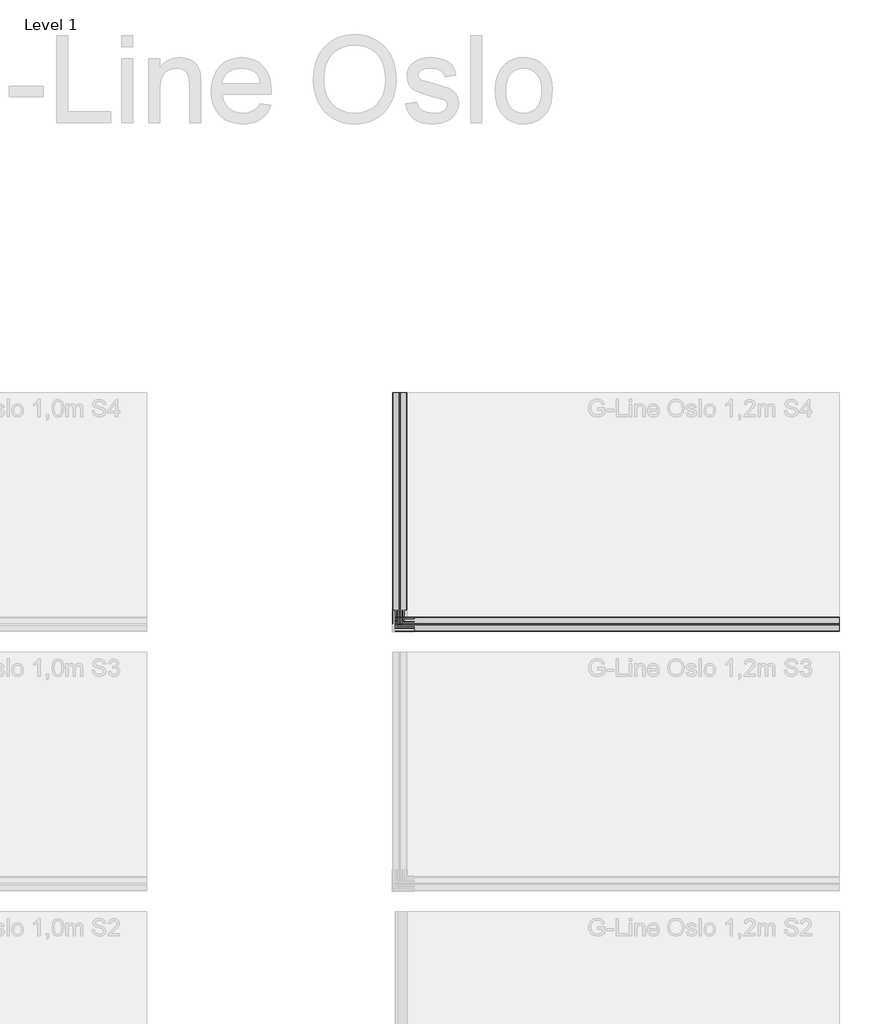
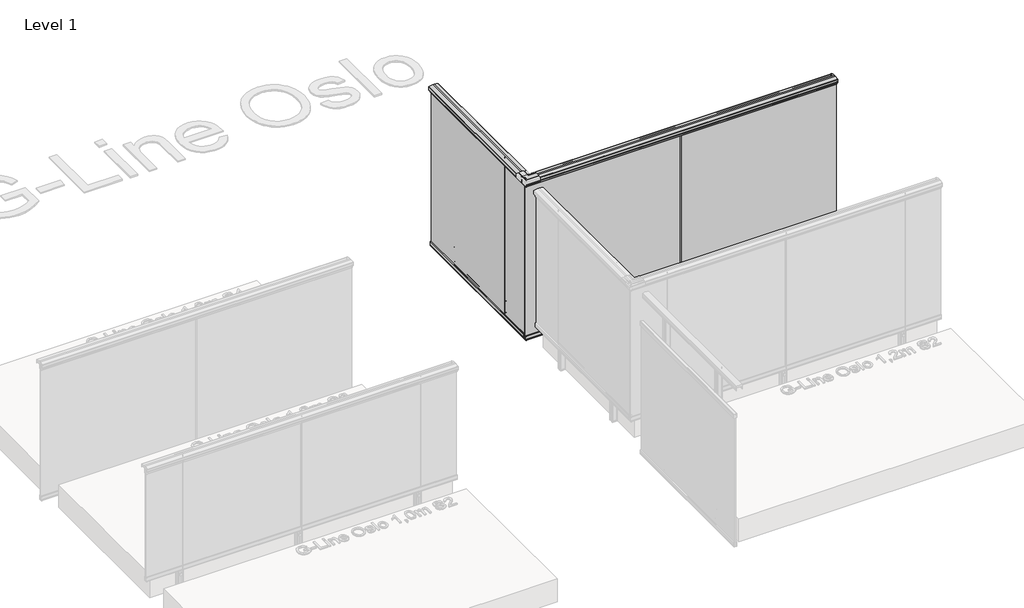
# One storey, part 46 of 66: 2 railings.
"""IFC4 building model written with IfcOpenShell, lengths in millimetres."""

import ifcopenshell
import ifcopenshell.guid

model = None  # the IFC model being written
_history = None  # IfcOwnerHistory: only IFC2X3 demands one
_inside = {}  # id of a spatial element -> (the spatial element, [elements in it])
_under = {}  # id of a project, library or spatial element -> (it, [spatial elements below it])
_declared = {}  # id of a project -> (the project, [libraries it declares])
_typed = {}  # id of a type object -> (the type object, [elements of that type])
_made_of = {}  # id of a material, layer set ... -> (it, [elements and type objects made of it])


def new_model(schema):
    """Start an empty IFC model of exactly this schema.

    Asked for "IFC4X3", IfcOpenShell would pick the latest addendum, in which some entities
    have other attributes; the version numbers below select the first issue.
    IFC2X3 requires an IfcOwnerHistory on every rooted entity: one is made here for all.
    """
    global model, _history
    if schema == "IFC4X3":
        model = ifcopenshell.file(schema_version=(4, 3, 0, 0))
    else:
        model = ifcopenshell.file(schema=schema)
    _inside.clear()
    _under.clear()
    _declared.clear()
    _typed.clear()
    _made_of.clear()
    _history = None
    if model.schema == "IFC2X3":
        org = make("IfcOrganization", Name="unknown")
        user = make(
            "IfcPersonAndOrganization",
            ThePerson=make("IfcPerson", FamilyName="unknown"),
            TheOrganization=org,
        )
        app = make(
            "IfcApplication",
            ApplicationDeveloper=org,
            Version="unknown",
            ApplicationFullName="unknown",
            ApplicationIdentifier="unknown",
        )
        _history = make(
            "IfcOwnerHistory",
            OwningUser=user,
            OwningApplication=app,
            ChangeAction="ADDED",
            CreationDate=0,
        )
    return model


def make(cls, **values):
    """One entity of the class cls with the attributes given. An attribute that is None is left unset."""
    return model.create_entity(
        cls, **{name: value for name, value in values.items() if value is not None}
    )


def rooted(cls, **values):
    """An entity with a GlobalId (a new one), such as an element, a storey or a relation."""
    return make(cls, GlobalId=ifcopenshell.guid.new(), OwnerHistory=_history, **values)


def si_unit(unit_type, name, prefix=None):
    """IfcSIUnit, for example si_unit("LENGTHUNIT", "METRE", prefix="MILLI")."""
    return make("IfcSIUnit", UnitType=unit_type, Prefix=prefix, Name=name)


def assignment(units):
    """IfcUnitAssignment: the units of a project."""
    return None if units is None else make("IfcUnitAssignment", Units=units)


def point(xyz):
    """IfcCartesianPoint."""
    return None if xyz is None else make("IfcCartesianPoint", Coordinates=xyz)


def direction(xyz):
    """IfcDirection."""
    return None if xyz is None else make("IfcDirection", DirectionRatios=xyz)


def frame(location, z_axis=None, x_axis=None):
    """IfcAxis2Placement3D, a coordinate frame: its origin and axes. An axis left out is left unset."""
    return make(
        "IfcAxis2Placement3D",
        Location=point(location),
        Axis=direction(z_axis),
        RefDirection=direction(x_axis),
    )


def frame_2d(location, x_axis=None):
    """IfcAxis2Placement2D, a coordinate frame in the plane: its origin and x axis."""
    return make(
        "IfcAxis2Placement2D", Location=point(location), RefDirection=direction(x_axis)
    )


def origin():
    """The frame at (0, 0, 0) with its axes left unset."""
    return frame((0.0, 0.0, 0.0))


def place(relative_to, where):
    """IfcLocalPlacement: puts the frame where relative to a parent placement (None: the world)."""
    return make(
        "IfcLocalPlacement", PlacementRelTo=relative_to, RelativePlacement=where
    )


def context(
    kind, dimensions, precision=None, world=None, true_north=None, identifier=None
):
    """IfcGeometricRepresentationContext, for example the 3D "Model" context."""
    return make(
        "IfcGeometricRepresentationContext",
        ContextIdentifier=identifier,
        ContextType=kind,
        CoordinateSpaceDimension=dimensions,
        Precision=precision,
        WorldCoordinateSystem=world,
        TrueNorth=true_north,
    )


def project(units=None, contexts=None):
    """IfcProject with its units and contexts."""
    return rooted(
        "IfcProject",
        Name="project",
        RepresentationContexts=contexts,
        UnitsInContext=assignment(units),
    )


def spatial(cls, under=None, at=None, **own):
    """A site, building, storey or space (cls), placed at a placement, below another one or the project."""
    s = rooted(cls, ObjectPlacement=at, **own)
    if under is not None:
        _under.setdefault(under.id(), (under, []))[1].append(s)
    return s


def polyline(points):
    """IfcPolyline through the points."""
    return make("IfcPolyline", Points=[point(p) for p in points])


def circle_curve(where, radius):
    """IfcCircle in the frame where."""
    return make("IfcCircle", Position=where, Radius=radius)


def trimmed(basis, trim1, trim2, sense, master):
    """IfcTrimmedCurve: the piece of a basis curve between two trims."""
    return make(
        "IfcTrimmedCurve",
        BasisCurve=basis,
        Trim1=trim1,
        Trim2=trim2,
        SenseAgreement=sense,
        MasterRepresentation=master,
    )


def segment(curve, same_sense, transition):
    """IfcCompositeCurveSegment."""
    return make(
        "IfcCompositeCurveSegment",
        Transition=transition,
        SameSense=same_sense,
        ParentCurve=curve,
    )


def composite_curve(segments, self_intersect=None):
    """IfcCompositeCurve: segments joined end to end."""
    return make("IfcCompositeCurve", Segments=segments, SelfIntersect=self_intersect)


def outline(outer, holes=None, kind="AREA"):
    """IfcArbitraryClosedProfileDef: a profile drawn as a closed curve; with holes, ...WithVoids."""
    if holes is None:
        return make("IfcArbitraryClosedProfileDef", ProfileType=kind, OuterCurve=outer)
    return make(
        "IfcArbitraryProfileDefWithVoids",
        ProfileType=kind,
        OuterCurve=outer,
        InnerCurves=holes,
    )


def extrude(swept, where, along, depth):
    """IfcExtrudedAreaSolid: the profile swept, set in the frame where, extruded along a direction by depth."""
    return make(
        "IfcExtrudedAreaSolid",
        SweptArea=swept,
        Position=where,
        ExtrudedDirection=direction(along),
        Depth=depth,
    )


def shape(context_of_items, identifier, shape_type, items):
    """IfcShapeRepresentation: the items that make up one representation, for example the "Body"."""
    return make(
        "IfcShapeRepresentation",
        ContextOfItems=context_of_items,
        RepresentationIdentifier=identifier,
        RepresentationType=shape_type,
        Items=items,
    )


def made_of(thing, what):
    """Note that an element or type object is made of a material, layer set ...; save() writes the relation."""
    if what is not None:
        _made_of.setdefault(what.id(), (what, []))[1].append(thing)
    return thing


def element(
    cls,
    number,
    at=None,
    inside=None,
    cuts=None,
    type_object=None,
    material=None,
    context=None,
    identifier="Body",
    shape_type=None,
    held_by="IfcProductDefinitionShape",
    body=None,
    shapes=None,
    **own,
):
    """One element of the class cls, such as IfcWall. Its Tag is "e" and its number.

    at: its placement. inside: the storey or other place that contains it. cuts: it is an
    opening in that element (IfcRelVoidsElement). A single representation is given by context,
    identifier, shape_type and body (its items); several are given by shapes. held_by: the class
    of the entity that holds the representations. save() writes the other relations.
    """
    e = rooted(cls, Tag="e%d" % number, ObjectPlacement=at, **own)
    if body is not None:
        shapes = [shape(context, identifier, shape_type, body)]
    if shapes is not None:
        e.Representation = make(held_by, Representations=shapes)
    if inside is not None:
        _inside.setdefault(inside.id(), (inside, []))[1].append(e)
    if cuts is not None:
        rooted(
            "IfcRelVoidsElement", RelatingBuildingElement=cuts, RelatedOpeningElement=e
        )
    if type_object is not None:
        _typed.setdefault(type_object.id(), (type_object, []))[1].append(e)
    return made_of(e, material)


def aggregate(whole, parts):
    """IfcRelAggregates: a whole, such as a stair, and the parts it consists of."""
    return rooted("IfcRelAggregates", RelatingObject=whole, RelatedObjects=parts)


def save(model, path):
    """Write the relations noted so far, then the file.

    IfcRelAggregates (storeys below a building ...), IfcRelContainedInSpatialStructure (elements
    in a storey), IfcRelDefinesByType, IfcRelAssociatesMaterial and IfcRelDeclares: one each for
    every whole, place, type object, material and project.
    """
    for whole, parts in _under.values():
        aggregate(whole, parts)
    for where, things in _inside.values():
        rooted(
            "IfcRelContainedInSpatialStructure",
            RelatedElements=things,
            RelatingStructure=where,
        )
    for kind, things in _typed.values():
        rooted("IfcRelDefinesByType", RelatedObjects=things, RelatingType=kind)
    for what, things in _made_of.values():
        rooted("IfcRelAssociatesMaterial", RelatedObjects=things, RelatingMaterial=what)
    for by, libraries in _declared.values():
        rooted("IfcRelDeclares", RelatingContext=by, RelatedDefinitions=libraries)
    model.write(path)


model = new_model("IFC4")

# Units and contexts
model_context = context("Model", 3, world=origin())
ifc_project = project(units=[si_unit("LENGTHUNIT", "METRE", prefix="MILLI")], contexts=[model_context])

# Site, building, storey
site = spatial("IfcSite", under=ifc_project)
building = spatial("IfcBuilding", under=site)
storey = spatial("IfcBuildingStorey", under=building, Name="Level 1", Elevation=0.0)

# Railings
placement = place(None, origin())
element("IfcRailing", 1, ObjectType="G-Line Oslo 1,2m  S4", at=placement, inside=storey, context=model_context, shape_type="SweptSolid", body=[
    extrude(outline(composite_curve([segment(polyline([(17132.289348, 1170.6825033), (17131.6638671, 1170.0570224), (17132.2491556, 1169.4717338), (17132.289348, 1165.5021186)]), True, "CONTINUOUS"), segment(trimmed(circle_curve(frame_2d((17131.789348, 1165.5021186)), 0.5), [point((17132.289348, 1165.5021186))], [point((17131.789348, 1165.0021186))], False, "CARTESIAN"), True, "CONTINUOUS"), segment(polyline([(17131.789348, 1165.0021186), (17130.789348, 1165.0021186), (17130.789348, 1179.5021186)]), True, "CONTINUOUS"), segment(trimmed(circle_curve(frame_2d((17130.289348, 1179.5021186)), 0.5), [point((17130.789348, 1179.5021186))], [point((17130.289348, 1180.0021186))], True, "CARTESIAN"), True, "CONTINUOUS"), segment(polyline([(17130.289348, 1180.0021186), (17052.289348, 1180.0021186)]), True, "CONTINUOUS"), segment(trimmed(circle_curve(frame_2d((17052.289348, 1179.5021186)), 0.5), [point((17052.289348, 1180.0021186))], [point((17051.789348, 1179.5021186))], True, "CARTESIAN"), True, "CONTINUOUS"), segment(polyline([(17051.789348, 1179.5021186), (17051.789348, 1165.0021186), (17050.789348, 1165.0021186)]), True, "CONTINUOUS"), segment(trimmed(circle_curve(frame_2d((17050.789348, 1165.5021186)), 0.5), [point((17050.789348, 1165.0021186))], [point((17050.289348, 1165.5021186))], False, "CARTESIAN"), True, "CONTINUOUS"), segment(polyline([(17050.289348, 1165.5021186), (17050.289348, 1169.2627449), (17050.9443234, 1169.9177203), (17050.3295404, 1170.5325033), (17050.289348, 1191.2139911)]), True, "CONTINUOUS"), segment(trimmed(circle_curve(frame_2d((17053.289348, 1191.2139911)), 3.0), [point((17050.289348, 1191.2139911))], [point((17052.2228567, 1194.0180233))], False, "CARTESIAN"), True, "CONTINUOUS"), segment(trimmed(circle_curve(frame_2d((17084.789348, 1108.3938053)), 91.6083133), [point((17052.2228567, 1194.0180233))], [point((17084.789348, 1200.0021186))], False, "CARTESIAN"), True, "CONTINUOUS"), segment(polyline([(17084.789348, 1200.0021186), (17097.789348, 1200.0021186)]), True, "CONTINUOUS"), segment(trimmed(circle_curve(frame_2d((17097.789348, 1108.3938053)), 91.6083133), [point((17097.789348, 1200.0021186))], [point((17130.3558394, 1194.0180233))], False, "CARTESIAN"), True, "CONTINUOUS"), segment(trimmed(circle_curve(frame_2d((17129.289348, 1191.2139911)), 3.0), [point((17130.3558394, 1194.0180233))], [point((17132.289348, 1191.2139911))], False, "CARTESIAN"), True, "CONTINUOUS"), segment(polyline([(17132.289348, 1191.2139911), (17132.289348, 1170.6825033)]), True, "CONTINUOUS")], self_intersect=False)), frame((8439.0547322, 0.0, 0.0), z_axis=(1.0, 0.0, 0.0), x_axis=(0.0, 1.0, 0.0)), (0.0, 0.0, 1.0), 2565.0),
    extrude(outline(composite_curve([segment(polyline([(17082.0487504, 1141.0), (17072.5287505, 1141.0), (17065.2886441, 1141.0)]), True, "CONTINUOUS"), segment(trimmed(circle_curve(frame_2d((17065.2886441, 1141.5)), 0.5), [point((17065.2886441, 1141.0))], [point((17064.7886441, 1141.5))], False, "CARTESIAN"), True, "CONTINUOUS"), segment(polyline([(17064.7886441, 1141.5), (17064.7886441, 1169.4642612), (17065.2520415, 1170.5008136), (17064.8288365, 1171.3802866), (17064.7886441, 1176.5)]), True, "CONTINUOUS"), segment(trimmed(circle_curve(frame_2d((17066.2886441, 1176.5)), 1.5), [point((17064.7886441, 1176.5))], [point((17066.2886441, 1178.0))], False, "CARTESIAN"), True, "CONTINUOUS"), segment(polyline([(17066.2886441, 1178.0), (17088.2886441, 1178.0)]), True, "CONTINUOUS"), segment(trimmed(circle_curve(frame_2d((17088.2886441, 1176.5)), 1.5), [point((17088.2886441, 1178.0))], [point((17089.7886441, 1176.5))], False, "CARTESIAN"), True, "CONTINUOUS"), segment(polyline([(17089.7886441, 1176.5), (17089.7886441, 1171.5302866), (17089.3252466, 1170.5701988), (17089.7484517, 1169.6142612), (17089.7484517, 1141.6964102)]), True, "CONTINUOUS"), segment(trimmed(circle_curve(frame_2d((17089.2886441, 1141.5)), 0.5), [point((17089.7484517, 1141.6964102))], [point((17089.2886441, 1141.0))], False, "CARTESIAN"), True, "CONTINUOUS"), segment(polyline([(17089.2886441, 1141.0), (17082.0487504, 1141.0)]), True, "CONTINUOUS")], self_intersect=False)), frame((8439.0547322, 0.0, 0.0), z_axis=(1.0, 0.0, 0.0), x_axis=(0.0, 1.0, 0.0)), (0.0, 0.0, 1.0), 2565.0),
    extrude(outline(polyline([(11004.0547322, 17081.6686441), (11004.0547322, 17072.9086441), (8439.0547322, 17072.9086441), (8439.0547322, 17081.6686441), (11004.0547322, 17081.6686441)])), frame((0.0, 0.0, -200.0), z_axis=(0.0, 0.0, 1.0), x_axis=(1.0, 0.0, 0.0)), (0.0, 0.0, 1.0), 1380.0),
    extrude(outline(composite_curve([segment(polyline([(17072.5285377, -163.0), (17082.0485377, -163.0), (17089.2886441, -163.0)]), True, "CONTINUOUS"), segment(trimmed(circle_curve(frame_2d((17089.2886441, -163.5)), 0.5), [point((17089.2886441, -163.0))], [point((17089.7886441, -163.5))], False, "CARTESIAN"), True, "CONTINUOUS"), segment(polyline([(17089.7886441, -163.5), (17089.7886441, -191.4642612), (17089.3252466, -192.5008136), (17089.7484517, -193.3802866), (17089.7886441, -198.5)]), True, "CONTINUOUS"), segment(trimmed(circle_curve(frame_2d((17088.2886441, -198.5)), 1.5), [point((17089.7886441, -198.5))], [point((17088.2886441, -200.0))], False, "CARTESIAN"), True, "CONTINUOUS"), segment(polyline([(17088.2886441, -200.0), (17066.2886441, -200.0)]), True, "CONTINUOUS"), segment(trimmed(circle_curve(frame_2d((17066.2886441, -198.5)), 1.5), [point((17066.2886441, -200.0))], [point((17064.7886441, -198.5))], False, "CARTESIAN"), True, "CONTINUOUS"), segment(polyline([(17064.7886441, -198.5), (17064.7886441, -193.5302866), (17065.2520415, -192.5701988), (17064.8288365, -191.6142612), (17064.8288365, -163.6964102)]), True, "CONTINUOUS"), segment(trimmed(circle_curve(frame_2d((17065.2886441, -163.5)), 0.5), [point((17064.8288365, -163.6964102))], [point((17065.2886441, -163.0))], False, "CARTESIAN"), True, "CONTINUOUS"), segment(polyline([(17065.2886441, -163.0), (17072.5285377, -163.0)]), True, "CONTINUOUS")], self_intersect=False)), frame((8439.0547322, 0.0, 0.0), z_axis=(1.0, 0.0, 0.0), x_axis=(0.0, 1.0, 0.0)), (0.0, 0.0, 1.0), 2565.0),
    extrude(outline(polyline([(9725.5547322, 17070.2118492), (9717.5547322, 17070.2118492), (9717.5547322, 17078.2118492), (9725.5547322, 17078.2118492), (9725.5547322, 17070.2118492)])), frame((0.0, 0.0, -200.0), z_axis=(0.0, 0.0, 1.0), x_axis=(1.0, 0.0, 0.0)), (0.0, 0.0, 1.0), 1341.0),
    extrude(outline(composite_curve([segment(polyline([(9720.7519452, 17130.2886441), (9721.5547322, 17129.4858571), (9722.3225694, 17130.2536942), (9739.3808193, 17130.2886441)]), True, "CONTINUOUS"), segment(trimmed(circle_curve(frame_2d((9739.3808192, 17128.114731)), 2.173913), [point((9739.3808193, 17130.2886441))], [point((9741.5547322, 17128.114731))], False, "CARTESIAN"), True, "CONTINUOUS"), segment(polyline([(9741.5547322, 17128.114731), (9741.5547322, 17092.4625571)]), True, "CONTINUOUS"), segment(trimmed(circle_curve(frame_2d((9739.3808192, 17092.4625571)), 2.173913), [point((9741.5547322, 17092.4625571))], [point((9739.3808192, 17090.2886441))], False, "CARTESIAN"), True, "CONTINUOUS"), segment(polyline([(9739.3808192, 17090.2886441), (9722.3225694, 17090.323594), (9721.5547322, 17091.0914311), (9720.7868951, 17090.323594), (9703.7286453, 17090.2886441)]), True, "CONTINUOUS"), segment(trimmed(circle_curve(frame_2d((9703.7286453, 17092.4625571)), 2.173913), [point((9703.7286453, 17090.2886441))], [point((9701.5547322, 17092.4625571))], False, "CARTESIAN"), True, "CONTINUOUS"), segment(polyline([(9701.5547322, 17092.4625571), (9701.5547322, 17128.114731)]), True, "CONTINUOUS"), segment(trimmed(circle_curve(frame_2d((9703.7286453, 17128.114731)), 2.173913), [point((9701.5547322, 17128.114731))], [point((9703.7286453, 17130.2886441))], False, "CARTESIAN"), True, "CONTINUOUS"), segment(polyline([(9703.7286453, 17130.2886441), (9720.7519452, 17130.2886441)]), True, "CONTINUOUS")], self_intersect=False)), frame((0.0, 0.0, -200.0), z_axis=(0.0, 0.0, 1.0), x_axis=(1.0, 0.0, 0.0)), (0.0, 0.0, 1.0), 10.0),
    extrude(outline(composite_curve([segment(trimmed(circle_curve(frame_2d((0.0, -12.0)), 12.0), [point((0.0, -23.9999999))], [point((0.0, 0.0))], False, "CARTESIAN"), True, "CONTINUOUS"), segment(trimmed(circle_curve(frame_2d((0.0, -12.0)), 12.0), [point((0.0, 0.0))], [point((0.0, -23.9999999))], False, "CARTESIAN"), True, "CONTINUOUS")], self_intersect=False)), frame((9733.5650091, 17087.2248149, -151.0), z_axis=(-0.0004029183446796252, 0.9999999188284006, 0.0), x_axis=(0.0, 0.0, 1.0)), (0.0, 0.0, 1.0), 3.0757477),
    extrude(outline(composite_curve([segment(trimmed(circle_curve(frame_2d((0.0, -12.0)), 12.0), [point((0.0, -23.9999999))], [point((0.0, 0.0))], False, "CARTESIAN"), True, "CONTINUOUS"), segment(trimmed(circle_curve(frame_2d((0.0, -12.0)), 12.0), [point((0.0, 0.0))], [point((0.0, -23.9999999))], False, "CARTESIAN"), True, "CONTINUOUS")], self_intersect=False)), frame((9733.5650091, 17087.2248149, -50.0), z_axis=(-0.0004029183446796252, 0.9999999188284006, 0.0), x_axis=(0.0, 0.0, 1.0)), (0.0, 0.0, 1.0), 3.0757477),
    extrude(outline(composite_curve([segment(polyline([(9741.5547322, 17128.114731), (9741.5547322, 17092.4625571)]), True, "CONTINUOUS"), segment(trimmed(circle_curve(frame_2d((9739.3808192, 17092.4625571)), 2.173913), [point((9741.5547322, 17092.4625571))], [point((9739.3808192, 17090.2886441))], False, "CARTESIAN"), True, "CONTINUOUS"), segment(polyline([(9739.3808192, 17090.2886441), (9722.3225694, 17090.323594), (9721.5547322, 17091.0914311), (9720.7868951, 17090.323594), (9703.7286453, 17090.2886441)]), True, "CONTINUOUS"), segment(trimmed(circle_curve(frame_2d((9703.7286453, 17092.4625571)), 2.173913), [point((9703.7286453, 17090.2886441))], [point((9701.5547322, 17092.4625571))], False, "CARTESIAN"), True, "CONTINUOUS"), segment(polyline([(9701.5547322, 17092.4625571), (9701.5547322, 17128.114731)]), True, "CONTINUOUS"), segment(trimmed(circle_curve(frame_2d((9703.7286453, 17128.114731)), 2.173913), [point((9701.5547322, 17128.114731))], [point((9703.7286453, 17130.2886441))], False, "CARTESIAN"), True, "CONTINUOUS"), segment(polyline([(9703.7286453, 17130.2886441), (9720.6564603, 17130.2886441), (9721.4242975, 17129.8856898), (9722.3225694, 17130.2536942), (9739.3808192, 17130.2886441)]), True, "CONTINUOUS"), segment(trimmed(circle_curve(frame_2d((9739.3808192, 17128.114731)), 2.173913), [point((9739.3808192, 17130.2886441))], [point((9741.5547322, 17128.114731))], False, "CARTESIAN"), True, "CONTINUOUS")], self_intersect=False), holes=[composite_curve([segment(trimmed(circle_curve(frame_2d((9737.2069062, 17125.940818)), 0.8695652), [point((9738.0764714, 17125.940818))], [point((9737.2069062, 17126.8103832))], True, "CARTESIAN"), True, "CONTINUOUS"), segment(polyline([(9737.2069062, 17126.8103832), (9705.9025583, 17126.8103832)]), True, "CONTINUOUS"), segment(trimmed(circle_curve(frame_2d((9705.9025583, 17125.940818)), 0.8695652), [point((9705.9025583, 17126.8103832))], [point((9705.0329931, 17125.940818))], True, "CARTESIAN"), True, "CONTINUOUS"), segment(polyline([(9705.0329931, 17125.940818), (9705.0329931, 17094.6364702)]), True, "CONTINUOUS"), segment(trimmed(circle_curve(frame_2d((9705.9025583, 17094.6364702)), 0.8695652), [point((9705.0329931, 17094.6364702))], [point((9705.9025583, 17093.766905))], True, "CARTESIAN"), True, "CONTINUOUS"), segment(polyline([(9705.9025583, 17093.766905), (9737.2069062, 17093.766905)]), True, "CONTINUOUS"), segment(trimmed(circle_curve(frame_2d((9737.2069062, 17094.6364702)), 0.8695652), [point((9737.2069062, 17093.766905))], [point((9738.0764714, 17094.6364702))], True, "CARTESIAN"), True, "CONTINUOUS"), segment(polyline([(9738.0764714, 17094.6364702), (9738.0764714, 17125.940818)]), True, "CONTINUOUS")], self_intersect=False)]), frame((0.0, 0.0, -190.0), z_axis=(0.0, 0.0, 1.0), x_axis=(1.0, 0.0, 0.0)), (0.0, 0.0, 1.0), 1371.0),
    extrude(outline(composite_curve([segment(polyline([(8738.2519452, 17130.2886441), (8739.0547322, 17129.4858571), (8739.8225694, 17130.2536942), (8756.8808193, 17130.2886441)]), True, "CONTINUOUS"), segment(trimmed(circle_curve(frame_2d((8756.8808192, 17128.114731)), 2.173913), [point((8756.8808193, 17130.2886441))], [point((8759.0547322, 17128.114731))], False, "CARTESIAN"), True, "CONTINUOUS"), segment(polyline([(8759.0547322, 17128.114731), (8759.0547322, 17092.4625571)]), True, "CONTINUOUS"), segment(trimmed(circle_curve(frame_2d((8756.8808192, 17092.4625571)), 2.173913), [point((8759.0547322, 17092.4625571))], [point((8756.8808192, 17090.2886441))], False, "CARTESIAN"), True, "CONTINUOUS"), segment(polyline([(8756.8808192, 17090.2886441), (8739.8225694, 17090.323594), (8739.0547322, 17091.0914311), (8738.2868951, 17090.323594), (8721.2286453, 17090.2886441)]), True, "CONTINUOUS"), segment(trimmed(circle_curve(frame_2d((8721.2286453, 17092.4625571)), 2.173913), [point((8721.2286453, 17090.2886441))], [point((8719.0547322, 17092.4625571))], False, "CARTESIAN"), True, "CONTINUOUS"), segment(polyline([(8719.0547322, 17092.4625571), (8719.0547322, 17128.114731)]), True, "CONTINUOUS"), segment(trimmed(circle_curve(frame_2d((8721.2286453, 17128.114731)), 2.173913), [point((8719.0547322, 17128.114731))], [point((8721.2286453, 17130.2886441))], False, "CARTESIAN"), True, "CONTINUOUS"), segment(polyline([(8721.2286453, 17130.2886441), (8738.2519452, 17130.2886441)]), True, "CONTINUOUS")], self_intersect=False)), frame((0.0, 0.0, -200.0), z_axis=(0.0, 0.0, 1.0), x_axis=(1.0, 0.0, 0.0)), (0.0, 0.0, 1.0), 10.0),
    extrude(outline(composite_curve([segment(trimmed(circle_curve(frame_2d((0.0, -12.0)), 12.0), [point((0.0, -23.9999999))], [point((0.0, 0.0))], False, "CARTESIAN"), True, "CONTINUOUS"), segment(trimmed(circle_curve(frame_2d((0.0, -12.0)), 12.0), [point((0.0, 0.0))], [point((0.0, -23.9999999))], False, "CARTESIAN"), True, "CONTINUOUS")], self_intersect=False)), frame((8751.0650091, 17087.2248149, -151.0), z_axis=(-0.0004029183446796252, 0.9999999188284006, 0.0), x_axis=(0.0, 0.0, 1.0)), (0.0, 0.0, 1.0), 3.0757477),
    extrude(outline(composite_curve([segment(trimmed(circle_curve(frame_2d((0.0, -12.0)), 12.0), [point((0.0, -23.9999999))], [point((0.0, 0.0))], False, "CARTESIAN"), True, "CONTINUOUS"), segment(trimmed(circle_curve(frame_2d((0.0, -12.0)), 12.0), [point((0.0, 0.0))], [point((0.0, -23.9999999))], False, "CARTESIAN"), True, "CONTINUOUS")], self_intersect=False)), frame((8751.0650091, 17087.2248149, -50.0), z_axis=(-0.0004029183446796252, 0.9999999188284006, 0.0), x_axis=(0.0, 0.0, 1.0)), (0.0, 0.0, 1.0), 3.0757477),
    extrude(outline(composite_curve([segment(polyline([(8759.0547322, 17128.114731), (8759.0547322, 17092.4625571)]), True, "CONTINUOUS"), segment(trimmed(circle_curve(frame_2d((8756.8808192, 17092.4625571)), 2.173913), [point((8759.0547322, 17092.4625571))], [point((8756.8808192, 17090.2886441))], False, "CARTESIAN"), True, "CONTINUOUS"), segment(polyline([(8756.8808192, 17090.2886441), (8739.8225694, 17090.323594), (8739.0547322, 17091.0914311), (8738.2868951, 17090.323594), (8721.2286453, 17090.2886441)]), True, "CONTINUOUS"), segment(trimmed(circle_curve(frame_2d((8721.2286453, 17092.4625571)), 2.173913), [point((8721.2286453, 17090.2886441))], [point((8719.0547322, 17092.4625571))], False, "CARTESIAN"), True, "CONTINUOUS"), segment(polyline([(8719.0547322, 17092.4625571), (8719.0547322, 17128.114731)]), True, "CONTINUOUS"), segment(trimmed(circle_curve(frame_2d((8721.2286453, 17128.114731)), 2.173913), [point((8719.0547322, 17128.114731))], [point((8721.2286453, 17130.2886441))], False, "CARTESIAN"), True, "CONTINUOUS"), segment(polyline([(8721.2286453, 17130.2886441), (8738.1564603, 17130.2886441), (8738.9242975, 17129.8856898), (8739.8225694, 17130.2536942), (8756.8808192, 17130.2886441)]), True, "CONTINUOUS"), segment(trimmed(circle_curve(frame_2d((8756.8808192, 17128.114731)), 2.173913), [point((8756.8808192, 17130.2886441))], [point((8759.0547322, 17128.114731))], False, "CARTESIAN"), True, "CONTINUOUS")], self_intersect=False), holes=[composite_curve([segment(trimmed(circle_curve(frame_2d((8754.7069062, 17125.940818)), 0.8695652), [point((8755.5764714, 17125.940818))], [point((8754.7069062, 17126.8103832))], True, "CARTESIAN"), True, "CONTINUOUS"), segment(polyline([(8754.7069062, 17126.8103832), (8723.4025583, 17126.8103832)]), True, "CONTINUOUS"), segment(trimmed(circle_curve(frame_2d((8723.4025583, 17125.940818)), 0.8695652), [point((8723.4025583, 17126.8103832))], [point((8722.5329931, 17125.940818))], True, "CARTESIAN"), True, "CONTINUOUS"), segment(polyline([(8722.5329931, 17125.940818), (8722.5329931, 17094.6364702)]), True, "CONTINUOUS"), segment(trimmed(circle_curve(frame_2d((8723.4025583, 17094.6364702)), 0.8695652), [point((8722.5329931, 17094.6364702))], [point((8723.4025583, 17093.766905))], True, "CARTESIAN"), True, "CONTINUOUS"), segment(polyline([(8723.4025583, 17093.766905), (8754.7069062, 17093.766905)]), True, "CONTINUOUS"), segment(trimmed(circle_curve(frame_2d((8754.7069062, 17094.6364702)), 0.8695652), [point((8754.7069062, 17093.766905))], [point((8755.5764714, 17094.6364702))], True, "CARTESIAN"), True, "CONTINUOUS"), segment(polyline([(8755.5764714, 17094.6364702), (8755.5764714, 17125.940818)]), True, "CONTINUOUS")], self_intersect=False)]), frame((0.0, 0.0, -190.0), z_axis=(0.0, 0.0, 1.0), x_axis=(1.0, 0.0, 0.0)), (0.0, 0.0, 1.0), 1371.0),
    extrude(outline(composite_curve([segment(polyline([(10703.2519452, 17130.2886441), (10704.0547322, 17129.4858571), (10704.8225694, 17130.2536942), (10721.8808193, 17130.2886441)]), True, "CONTINUOUS"), segment(trimmed(circle_curve(frame_2d((10721.8808192, 17128.114731)), 2.173913), [point((10721.8808193, 17130.2886441))], [point((10724.0547322, 17128.114731))], False, "CARTESIAN"), True, "CONTINUOUS"), segment(polyline([(10724.0547322, 17128.114731), (10724.0547322, 17092.4625571)]), True, "CONTINUOUS"), segment(trimmed(circle_curve(frame_2d((10721.8808192, 17092.4625571)), 2.173913), [point((10724.0547322, 17092.4625571))], [point((10721.8808192, 17090.2886441))], False, "CARTESIAN"), True, "CONTINUOUS"), segment(polyline([(10721.8808192, 17090.2886441), (10704.8225694, 17090.323594), (10704.0547322, 17091.0914311), (10703.2868951, 17090.323594), (10686.2286453, 17090.2886441)]), True, "CONTINUOUS"), segment(trimmed(circle_curve(frame_2d((10686.2286453, 17092.4625571)), 2.173913), [point((10686.2286453, 17090.2886441))], [point((10684.0547322, 17092.4625571))], False, "CARTESIAN"), True, "CONTINUOUS"), segment(polyline([(10684.0547322, 17092.4625571), (10684.0547322, 17128.114731)]), True, "CONTINUOUS"), segment(trimmed(circle_curve(frame_2d((10686.2286453, 17128.114731)), 2.173913), [point((10684.0547322, 17128.114731))], [point((10686.2286453, 17130.2886441))], False, "CARTESIAN"), True, "CONTINUOUS"), segment(polyline([(10686.2286453, 17130.2886441), (10703.2519452, 17130.2886441)]), True, "CONTINUOUS")], self_intersect=False)), frame((0.0, 0.0, -200.0), z_axis=(0.0, 0.0, 1.0), x_axis=(1.0, 0.0, 0.0)), (0.0, 0.0, 1.0), 10.0),
    extrude(outline(composite_curve([segment(trimmed(circle_curve(frame_2d((0.0, -12.0)), 12.0), [point((0.0, -23.9999999))], [point((0.0, 0.0))], False, "CARTESIAN"), True, "CONTINUOUS"), segment(trimmed(circle_curve(frame_2d((0.0, -12.0)), 12.0), [point((0.0, 0.0))], [point((0.0, -23.9999999))], False, "CARTESIAN"), True, "CONTINUOUS")], self_intersect=False)), frame((10716.0650091, 17087.2248149, -151.0), z_axis=(-0.0004029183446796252, 0.9999999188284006, 0.0), x_axis=(0.0, 0.0, 1.0)), (0.0, 0.0, 1.0), 3.0757477),
    extrude(outline(composite_curve([segment(trimmed(circle_curve(frame_2d((0.0, -12.0)), 12.0), [point((0.0, -23.9999999))], [point((0.0, 0.0))], False, "CARTESIAN"), True, "CONTINUOUS"), segment(trimmed(circle_curve(frame_2d((0.0, -12.0)), 12.0), [point((0.0, 0.0))], [point((0.0, -23.9999999))], False, "CARTESIAN"), True, "CONTINUOUS")], self_intersect=False)), frame((10716.0650091, 17087.2248149, -50.0), z_axis=(-0.0004029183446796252, 0.9999999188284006, 0.0), x_axis=(0.0, 0.0, 1.0)), (0.0, 0.0, 1.0), 3.0757477),
    extrude(outline(composite_curve([segment(polyline([(10724.0547322, 17128.114731), (10724.0547322, 17092.4625571)]), True, "CONTINUOUS"), segment(trimmed(circle_curve(frame_2d((10721.8808192, 17092.4625571)), 2.173913), [point((10724.0547322, 17092.4625571))], [point((10721.8808192, 17090.2886441))], False, "CARTESIAN"), True, "CONTINUOUS"), segment(polyline([(10721.8808192, 17090.2886441), (10704.8225694, 17090.323594), (10704.0547322, 17091.0914311), (10703.2868951, 17090.323594), (10686.2286453, 17090.2886441)]), True, "CONTINUOUS"), segment(trimmed(circle_curve(frame_2d((10686.2286453, 17092.4625571)), 2.173913), [point((10686.2286453, 17090.2886441))], [point((10684.0547322, 17092.4625571))], False, "CARTESIAN"), True, "CONTINUOUS"), segment(polyline([(10684.0547322, 17092.4625571), (10684.0547322, 17128.114731)]), True, "CONTINUOUS"), segment(trimmed(circle_curve(frame_2d((10686.2286453, 17128.114731)), 2.173913), [point((10684.0547322, 17128.114731))], [point((10686.2286453, 17130.2886441))], False, "CARTESIAN"), True, "CONTINUOUS"), segment(polyline([(10686.2286453, 17130.2886441), (10703.1564603, 17130.2886441), (10703.9242975, 17129.8856898), (10704.8225694, 17130.2536942), (10721.8808192, 17130.2886441)]), True, "CONTINUOUS"), segment(trimmed(circle_curve(frame_2d((10721.8808192, 17128.114731)), 2.173913), [point((10721.8808192, 17130.2886441))], [point((10724.0547322, 17128.114731))], False, "CARTESIAN"), True, "CONTINUOUS")], self_intersect=False), holes=[composite_curve([segment(trimmed(circle_curve(frame_2d((10719.7069062, 17125.940818)), 0.8695652), [point((10720.5764714, 17125.940818))], [point((10719.7069062, 17126.8103832))], True, "CARTESIAN"), True, "CONTINUOUS"), segment(polyline([(10719.7069062, 17126.8103832), (10688.4025583, 17126.8103832)]), True, "CONTINUOUS"), segment(trimmed(circle_curve(frame_2d((10688.4025583, 17125.940818)), 0.8695652), [point((10688.4025583, 17126.8103832))], [point((10687.5329931, 17125.940818))], True, "CARTESIAN"), True, "CONTINUOUS"), segment(polyline([(10687.5329931, 17125.940818), (10687.5329931, 17094.6364702)]), True, "CONTINUOUS"), segment(trimmed(circle_curve(frame_2d((10688.4025583, 17094.6364702)), 0.8695652), [point((10687.5329931, 17094.6364702))], [point((10688.4025583, 17093.766905))], True, "CARTESIAN"), True, "CONTINUOUS"), segment(polyline([(10688.4025583, 17093.766905), (10719.7069062, 17093.766905)]), True, "CONTINUOUS"), segment(trimmed(circle_curve(frame_2d((10719.7069062, 17094.6364702)), 0.8695652), [point((10719.7069062, 17093.766905))], [point((10720.5764714, 17094.6364702))], True, "CARTESIAN"), True, "CONTINUOUS"), segment(polyline([(10720.5764714, 17094.6364702), (10720.5764714, 17125.940818)]), True, "CONTINUOUS")], self_intersect=False)]), frame((0.0, 0.0, -190.0), z_axis=(0.0, 0.0, 1.0), x_axis=(1.0, 0.0, 0.0)), (0.0, 0.0, 1.0), 1371.0),
])
element("IfcRailing", 2, ObjectType="G-Line Oslo 1,2m  S4", at=placement, inside=storey, context=model_context, shape_type="SweptSolid", body=[
    extrude(outline(composite_curve([segment(polyline([(1170.6825033, 8424.0540283), (1170.0570224, 8424.6795093), (1169.4717338, 8424.0942207), (1165.5021186, 8424.0540283)]), True, "CONTINUOUS"), segment(trimmed(circle_curve(frame_2d((1165.5021186, 8424.5540283)), 0.5), [point((1165.5021186, 8424.0540283))], [point((1165.0021186, 8424.5540283))], False, "CARTESIAN"), True, "CONTINUOUS"), segment(polyline([(1165.0021186, 8424.5540283), (1165.0021186, 8425.5540283), (1179.5021186, 8425.5540283)]), True, "CONTINUOUS"), segment(trimmed(circle_curve(frame_2d((1179.5021186, 8426.0540283)), 0.5), [point((1179.5021186, 8425.5540283))], [point((1180.0021186, 8426.0540283))], True, "CARTESIAN"), True, "CONTINUOUS"), segment(polyline([(1180.0021186, 8426.0540283), (1180.0021186, 8504.0540283)]), True, "CONTINUOUS"), segment(trimmed(circle_curve(frame_2d((1179.5021186, 8504.0540283)), 0.5), [point((1180.0021186, 8504.0540283))], [point((1179.5021186, 8504.5540283))], True, "CARTESIAN"), True, "CONTINUOUS"), segment(polyline([(1179.5021186, 8504.5540283), (1165.0021186, 8504.5540283), (1165.0021186, 8505.5540283)]), True, "CONTINUOUS"), segment(trimmed(circle_curve(frame_2d((1165.5021186, 8505.5540283)), 0.5), [point((1165.0021186, 8505.5540283))], [point((1165.5021186, 8506.0540283))], False, "CARTESIAN"), True, "CONTINUOUS"), segment(polyline([(1165.5021186, 8506.0540283), (1169.2627449, 8506.0540283), (1169.9177203, 8505.3990529), (1170.5325033, 8506.0138359), (1191.2139911, 8506.0540283)]), True, "CONTINUOUS"), segment(trimmed(circle_curve(frame_2d((1191.2139911, 8503.0540283)), 3.0), [point((1191.2139911, 8506.0540283))], [point((1194.0180233, 8504.1205197))], False, "CARTESIAN"), True, "CONTINUOUS"), segment(trimmed(circle_curve(frame_2d((1108.3938053, 8471.5540283)), 91.6083133), [point((1194.0180233, 8504.1205197))], [point((1200.0021186, 8471.5540283))], False, "CARTESIAN"), True, "CONTINUOUS"), segment(polyline([(1200.0021186, 8471.5540283), (1200.0021186, 8458.5540283)]), True, "CONTINUOUS"), segment(trimmed(circle_curve(frame_2d((1108.3938053, 8458.5540283)), 91.6083133), [point((1200.0021186, 8458.5540283))], [point((1194.0180233, 8425.987537))], False, "CARTESIAN"), True, "CONTINUOUS"), segment(trimmed(circle_curve(frame_2d((1191.2139911, 8427.0540283)), 3.0), [point((1194.0180233, 8425.987537))], [point((1191.2139911, 8424.0540283))], False, "CARTESIAN"), True, "CONTINUOUS"), segment(polyline([(1191.2139911, 8424.0540283), (1170.6825033, 8424.0540283)]), True, "CONTINUOUS")], self_intersect=False)), frame((0.0, 17095.2886441, 0.0), z_axis=(0.0, 1.0, 0.0), x_axis=(0.0, 0.0, 1.0)), (0.0, 0.0, 1.0), 1335.0),
    extrude(outline(composite_curve([segment(polyline([(1141.0, 8455.8148386), (1141.0, 8463.0547322)]), True, "CONTINUOUS"), segment(trimmed(circle_curve(frame_2d((1141.5, 8463.0547322)), 0.5), [point((1141.0, 8463.0547322))], [point((1141.6964102, 8463.5145399))], False, "CARTESIAN"), True, "CONTINUOUS"), segment(polyline([(1141.6964102, 8463.5145399), (1169.6142612, 8463.5145399), (1170.5701988, 8463.0913348), (1171.5302866, 8463.5547322), (1176.5, 8463.5547322)]), True, "CONTINUOUS"), segment(trimmed(circle_curve(frame_2d((1176.5, 8462.0547322)), 1.5), [point((1176.5, 8463.5547322))], [point((1178.0, 8462.0547322))], False, "CARTESIAN"), True, "CONTINUOUS"), segment(polyline([(1178.0, 8462.0547322), (1178.0, 8440.0547322)]), True, "CONTINUOUS"), segment(trimmed(circle_curve(frame_2d((1176.5, 8440.0547322)), 1.5), [point((1178.0, 8440.0547322))], [point((1176.5, 8438.5547322))], False, "CARTESIAN"), True, "CONTINUOUS"), segment(polyline([(1176.5, 8438.5547322), (1171.3802866, 8438.5949246), (1170.5008136, 8439.0181297), (1169.4642612, 8438.5547322), (1141.5, 8438.5547322)]), True, "CONTINUOUS"), segment(trimmed(circle_curve(frame_2d((1141.5, 8439.0547322)), 0.5), [point((1141.5, 8438.5547322))], [point((1141.0, 8439.0547322))], False, "CARTESIAN"), True, "CONTINUOUS"), segment(polyline([(1141.0, 8439.0547322), (1141.0, 8446.2948387), (1141.0, 8455.8148386)]), True, "CONTINUOUS")], self_intersect=False)), frame((0.0, 17095.2886441, 0.0), z_axis=(0.0, 1.0, 0.0), x_axis=(0.0, 0.0, 1.0)), (0.0, 0.0, 1.0), 1335.0),
    extrude(outline(polyline([(8446.6747322, 18430.2886441), (8455.4347322, 18430.2886441), (8455.4347322, 17095.2886441), (8446.6747322, 17095.2886441), (8446.6747322, 18430.2886441)])), frame((0.0, 0.0, -200.0), z_axis=(0.0, 0.0, 1.0), x_axis=(1.0, 0.0, 0.0)), (0.0, 0.0, 1.0), 1380.0),
    extrude(outline(composite_curve([segment(polyline([(-163.0, 8446.2946259), (-163.0, 8439.0547322)]), True, "CONTINUOUS"), segment(trimmed(circle_curve(frame_2d((-163.5, 8439.0547322)), 0.5), [point((-163.0, 8439.0547322))], [point((-163.6964102, 8438.5949246))], False, "CARTESIAN"), True, "CONTINUOUS"), segment(polyline([(-163.6964102, 8438.5949246), (-191.6142612, 8438.5949246), (-192.5701988, 8439.0181297), (-193.5302866, 8438.5547322), (-198.5, 8438.5547322)]), True, "CONTINUOUS"), segment(trimmed(circle_curve(frame_2d((-198.5, 8440.0547322)), 1.5), [point((-198.5, 8438.5547322))], [point((-200.0, 8440.0547322))], False, "CARTESIAN"), True, "CONTINUOUS"), segment(polyline([(-200.0, 8440.0547322), (-200.0, 8462.0547322)]), True, "CONTINUOUS"), segment(trimmed(circle_curve(frame_2d((-198.5, 8462.0547322)), 1.5), [point((-200.0, 8462.0547322))], [point((-198.5, 8463.5547322))], False, "CARTESIAN"), True, "CONTINUOUS"), segment(polyline([(-198.5, 8463.5547322), (-193.3802866, 8463.5145399), (-192.5008136, 8463.0913348), (-191.4642612, 8463.5547322), (-163.5, 8463.5547322)]), True, "CONTINUOUS"), segment(trimmed(circle_curve(frame_2d((-163.5, 8463.0547322)), 0.5), [point((-163.5, 8463.5547322))], [point((-163.0, 8463.0547322))], False, "CARTESIAN"), True, "CONTINUOUS"), segment(polyline([(-163.0, 8463.0547322), (-163.0, 8455.8146258), (-163.0, 8446.2946259)]), True, "CONTINUOUS")], self_intersect=False)), frame((0.0, 17095.2886441, 0.0), z_axis=(0.0, 1.0, 0.0), x_axis=(0.0, 0.0, 1.0)), (0.0, 0.0, 1.0), 1335.0),
    extrude(outline(composite_curve([segment(polyline([(8504.0547322, 17394.4858571), (8504.0547322, 17377.4625571)]), True, "CONTINUOUS"), segment(trimmed(circle_curve(frame_2d((8501.8808192, 17377.4625571)), 2.173913), [point((8504.0547322, 17377.4625571))], [point((8501.8808192, 17375.2886441))], False, "CARTESIAN"), True, "CONTINUOUS"), segment(polyline([(8501.8808192, 17375.2886441), (8466.2286453, 17375.2886441)]), True, "CONTINUOUS"), segment(trimmed(circle_curve(frame_2d((8466.2286453, 17377.4625571)), 2.173913), [point((8466.2286453, 17375.2886441))], [point((8464.0547322, 17377.4625571))], False, "CARTESIAN"), True, "CONTINUOUS"), segment(polyline([(8464.0547322, 17377.4625571), (8464.0896821, 17394.520807), (8464.8575193, 17395.2886441), (8464.0896821, 17396.0564812), (8464.0547322, 17413.114731)]), True, "CONTINUOUS"), segment(trimmed(circle_curve(frame_2d((8466.2286453, 17413.114731)), 2.173913), [point((8464.0547322, 17413.114731))], [point((8466.2286453, 17415.2886441))], False, "CARTESIAN"), True, "CONTINUOUS"), segment(polyline([(8466.2286453, 17415.2886441), (8501.8808192, 17415.2886441)]), True, "CONTINUOUS"), segment(trimmed(circle_curve(frame_2d((8501.8808192, 17413.114731)), 2.173913), [point((8501.8808192, 17415.2886441))], [point((8504.0547322, 17413.1147311))], False, "CARTESIAN"), True, "CONTINUOUS"), segment(polyline([(8504.0547322, 17413.1147311), (8504.0197823, 17396.0564812), (8503.2519452, 17395.2886441), (8504.0547322, 17394.4858571)]), True, "CONTINUOUS")], self_intersect=False)), frame((0.0, 0.0, -200.0), z_axis=(0.0, 0.0, 1.0), x_axis=(1.0, 0.0, 0.0)), (0.0, 0.0, 1.0), 10.0),
    extrude(outline(composite_curve([segment(trimmed(circle_curve(frame_2d((0.0, 12.0000001)), 12.0), [point((0.0, 24.0))], [point((0.0, 0.0))], False, "CARTESIAN"), True, "CONTINUOUS"), segment(trimmed(circle_curve(frame_2d((0.0, 12.0000001)), 12.0), [point((0.0, 0.0))], [point((0.0, 24.0))], False, "CARTESIAN"), True, "CONTINUOUS")], self_intersect=False)), frame((8464.0666505, 17407.2976817, -151.0), z_axis=(-0.9999999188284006, 0.00040291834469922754, 0.0), x_axis=(0.0, 0.0, -1.0)), (0.0, 0.0, 1.0), 3.0757477),
    extrude(outline(composite_curve([segment(trimmed(circle_curve(frame_2d((0.0, 12.0000001)), 12.0), [point((0.0, 24.0))], [point((0.0, 0.0))], False, "CARTESIAN"), True, "CONTINUOUS"), segment(trimmed(circle_curve(frame_2d((0.0, 12.0000001)), 12.0), [point((0.0, 0.0))], [point((0.0, 24.0))], False, "CARTESIAN"), True, "CONTINUOUS")], self_intersect=False)), frame((8464.0666505, 17407.2976817, -50.0), z_axis=(-0.9999999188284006, 0.00040291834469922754, 0.0), x_axis=(0.0, 0.0, -1.0)), (0.0, 0.0, 1.0), 3.0757477),
    extrude(outline(composite_curve([segment(trimmed(circle_curve(frame_2d((8501.8808192, 17413.114731)), 2.173913), [point((8501.8808192, 17415.2886441))], [point((8504.0547322, 17413.114731))], False, "CARTESIAN"), True, "CONTINUOUS"), segment(polyline([(8504.0547322, 17413.114731), (8504.0197823, 17396.0564812), (8503.6517779, 17395.1582093), (8504.0547322, 17394.3903722), (8504.0547322, 17377.4625571)]), True, "CONTINUOUS"), segment(trimmed(circle_curve(frame_2d((8501.8808192, 17377.4625571)), 2.173913), [point((8504.0547322, 17377.4625571))], [point((8501.8808192, 17375.2886441))], False, "CARTESIAN"), True, "CONTINUOUS"), segment(polyline([(8501.8808192, 17375.2886441), (8466.2286453, 17375.2886441)]), True, "CONTINUOUS"), segment(trimmed(circle_curve(frame_2d((8466.2286453, 17377.4625571)), 2.173913), [point((8466.2286453, 17375.2886441))], [point((8464.0547322, 17377.4625571))], False, "CARTESIAN"), True, "CONTINUOUS"), segment(polyline([(8464.0547322, 17377.4625571), (8464.0896821, 17394.520807), (8464.8575193, 17395.2886441), (8464.0896821, 17396.0564812), (8464.0547322, 17413.114731)]), True, "CONTINUOUS"), segment(trimmed(circle_curve(frame_2d((8466.2286453, 17413.114731)), 2.173913), [point((8464.0547322, 17413.114731))], [point((8466.2286453, 17415.2886441))], False, "CARTESIAN"), True, "CONTINUOUS"), segment(polyline([(8466.2286453, 17415.2886441), (8501.8808192, 17415.2886441)]), True, "CONTINUOUS")], self_intersect=False), holes=[composite_curve([segment(polyline([(8499.7069062, 17411.8103832), (8468.4025583, 17411.8103832)]), True, "CONTINUOUS"), segment(trimmed(circle_curve(frame_2d((8468.4025583, 17410.940818)), 0.8695652), [point((8468.4025583, 17411.8103832))], [point((8467.5329931, 17410.940818))], True, "CARTESIAN"), True, "CONTINUOUS"), segment(polyline([(8467.5329931, 17410.940818), (8467.5329931, 17379.6364702)]), True, "CONTINUOUS"), segment(trimmed(circle_curve(frame_2d((8468.4025583, 17379.6364702)), 0.8695652), [point((8467.5329931, 17379.6364702))], [point((8468.4025583, 17378.766905))], True, "CARTESIAN"), True, "CONTINUOUS"), segment(polyline([(8468.4025583, 17378.766905), (8499.7069062, 17378.766905)]), True, "CONTINUOUS"), segment(trimmed(circle_curve(frame_2d((8499.7069062, 17379.6364702)), 0.8695652), [point((8499.7069062, 17378.766905))], [point((8500.5764714, 17379.6364702))], True, "CARTESIAN"), True, "CONTINUOUS"), segment(polyline([(8500.5764714, 17379.6364702), (8500.5764714, 17410.940818)]), True, "CONTINUOUS"), segment(trimmed(circle_curve(frame_2d((8499.7069062, 17410.940818)), 0.8695652), [point((8500.5764714, 17410.940818))], [point((8499.7069062, 17411.8103832))], True, "CARTESIAN"), True, "CONTINUOUS")], self_intersect=False)]), frame((0.0, 0.0, -190.0), z_axis=(0.0, 0.0, 1.0), x_axis=(1.0, 0.0, 0.0)), (0.0, 0.0, 1.0), 1371.0),
    extrude(outline(composite_curve([segment(polyline([(8504.0547322, 18129.4858571), (8504.0547322, 18112.4625571)]), True, "CONTINUOUS"), segment(trimmed(circle_curve(frame_2d((8501.8808192, 18112.4625571)), 2.173913), [point((8504.0547322, 18112.4625571))], [point((8501.8808192, 18110.2886441))], False, "CARTESIAN"), True, "CONTINUOUS"), segment(polyline([(8501.8808192, 18110.2886441), (8466.2286453, 18110.2886441)]), True, "CONTINUOUS"), segment(trimmed(circle_curve(frame_2d((8466.2286453, 18112.4625571)), 2.173913), [point((8466.2286453, 18110.2886441))], [point((8464.0547322, 18112.4625571))], False, "CARTESIAN"), True, "CONTINUOUS"), segment(polyline([(8464.0547322, 18112.4625571), (8464.0896821, 18129.520807), (8464.8575193, 18130.2886441), (8464.0896821, 18131.0564812), (8464.0547322, 18148.114731)]), True, "CONTINUOUS"), segment(trimmed(circle_curve(frame_2d((8466.2286453, 18148.114731)), 2.173913), [point((8464.0547322, 18148.114731))], [point((8466.2286453, 18150.2886441))], False, "CARTESIAN"), True, "CONTINUOUS"), segment(polyline([(8466.2286453, 18150.2886441), (8501.8808192, 18150.2886441)]), True, "CONTINUOUS"), segment(trimmed(circle_curve(frame_2d((8501.8808192, 18148.114731)), 2.173913), [point((8501.8808192, 18150.2886441))], [point((8504.0547322, 18148.1147311))], False, "CARTESIAN"), True, "CONTINUOUS"), segment(polyline([(8504.0547322, 18148.1147311), (8504.0197823, 18131.0564812), (8503.2519452, 18130.2886441), (8504.0547322, 18129.4858571)]), True, "CONTINUOUS")], self_intersect=False)), frame((0.0, 0.0, -200.0), z_axis=(0.0, 0.0, 1.0), x_axis=(1.0, 0.0, 0.0)), (0.0, 0.0, 1.0), 10.0),
    extrude(outline(composite_curve([segment(trimmed(circle_curve(frame_2d((0.0, 12.0000001)), 12.0), [point((0.0, 24.0))], [point((0.0, 0.0))], False, "CARTESIAN"), True, "CONTINUOUS"), segment(trimmed(circle_curve(frame_2d((0.0, 12.0000001)), 12.0), [point((0.0, 0.0))], [point((0.0, 24.0))], False, "CARTESIAN"), True, "CONTINUOUS")], self_intersect=False)), frame((8464.0666505, 18142.2976817, -151.0), z_axis=(-0.9999999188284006, 0.00040291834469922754, 0.0), x_axis=(0.0, 0.0, -1.0)), (0.0, 0.0, 1.0), 3.0757477),
    extrude(outline(composite_curve([segment(trimmed(circle_curve(frame_2d((0.0, 12.0000001)), 12.0), [point((0.0, 24.0))], [point((0.0, 0.0))], False, "CARTESIAN"), True, "CONTINUOUS"), segment(trimmed(circle_curve(frame_2d((0.0, 12.0000001)), 12.0), [point((0.0, 0.0))], [point((0.0, 24.0))], False, "CARTESIAN"), True, "CONTINUOUS")], self_intersect=False)), frame((8464.0666505, 18142.2976817, -50.0), z_axis=(-0.9999999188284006, 0.00040291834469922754, 0.0), x_axis=(0.0, 0.0, -1.0)), (0.0, 0.0, 1.0), 3.0757477),
    extrude(outline(composite_curve([segment(trimmed(circle_curve(frame_2d((8501.8808192, 18148.114731)), 2.173913), [point((8501.8808192, 18150.2886441))], [point((8504.0547322, 18148.114731))], False, "CARTESIAN"), True, "CONTINUOUS"), segment(polyline([(8504.0547322, 18148.114731), (8504.0197823, 18131.0564812), (8503.6517779, 18130.1582093), (8504.0547322, 18129.3903722), (8504.0547322, 18112.4625571)]), True, "CONTINUOUS"), segment(trimmed(circle_curve(frame_2d((8501.8808192, 18112.4625571)), 2.173913), [point((8504.0547322, 18112.4625571))], [point((8501.8808192, 18110.2886441))], False, "CARTESIAN"), True, "CONTINUOUS"), segment(polyline([(8501.8808192, 18110.2886441), (8466.2286453, 18110.2886441)]), True, "CONTINUOUS"), segment(trimmed(circle_curve(frame_2d((8466.2286453, 18112.4625571)), 2.173913), [point((8466.2286453, 18110.2886441))], [point((8464.0547322, 18112.4625571))], False, "CARTESIAN"), True, "CONTINUOUS"), segment(polyline([(8464.0547322, 18112.4625571), (8464.0896821, 18129.520807), (8464.8575193, 18130.2886441), (8464.0896821, 18131.0564812), (8464.0547322, 18148.114731)]), True, "CONTINUOUS"), segment(trimmed(circle_curve(frame_2d((8466.2286453, 18148.114731)), 2.173913), [point((8464.0547322, 18148.114731))], [point((8466.2286453, 18150.2886441))], False, "CARTESIAN"), True, "CONTINUOUS"), segment(polyline([(8466.2286453, 18150.2886441), (8501.8808192, 18150.2886441)]), True, "CONTINUOUS")], self_intersect=False), holes=[composite_curve([segment(polyline([(8499.7069062, 18146.8103832), (8468.4025583, 18146.8103832)]), True, "CONTINUOUS"), segment(trimmed(circle_curve(frame_2d((8468.4025583, 18145.940818)), 0.8695652), [point((8468.4025583, 18146.8103832))], [point((8467.5329931, 18145.940818))], True, "CARTESIAN"), True, "CONTINUOUS"), segment(polyline([(8467.5329931, 18145.940818), (8467.5329931, 18114.6364702)]), True, "CONTINUOUS"), segment(trimmed(circle_curve(frame_2d((8468.4025583, 18114.6364702)), 0.8695652), [point((8467.5329931, 18114.6364702))], [point((8468.4025583, 18113.766905))], True, "CARTESIAN"), True, "CONTINUOUS"), segment(polyline([(8468.4025583, 18113.766905), (8499.7069062, 18113.766905)]), True, "CONTINUOUS"), segment(trimmed(circle_curve(frame_2d((8499.7069062, 18114.6364702)), 0.8695652), [point((8499.7069062, 18113.766905))], [point((8500.5764714, 18114.6364702))], True, "CARTESIAN"), True, "CONTINUOUS"), segment(polyline([(8500.5764714, 18114.6364702), (8500.5764714, 18145.940818)]), True, "CONTINUOUS"), segment(trimmed(circle_curve(frame_2d((8499.7069062, 18145.940818)), 0.8695652), [point((8500.5764714, 18145.940818))], [point((8499.7069062, 18146.8103832))], True, "CARTESIAN"), True, "CONTINUOUS")], self_intersect=False)]), frame((0.0, 0.0, -190.0), z_axis=(0.0, 0.0, 1.0), x_axis=(1.0, 0.0, 0.0)), (0.0, 0.0, 1.0), 1371.0),
])

save(model, "model.ifc")
